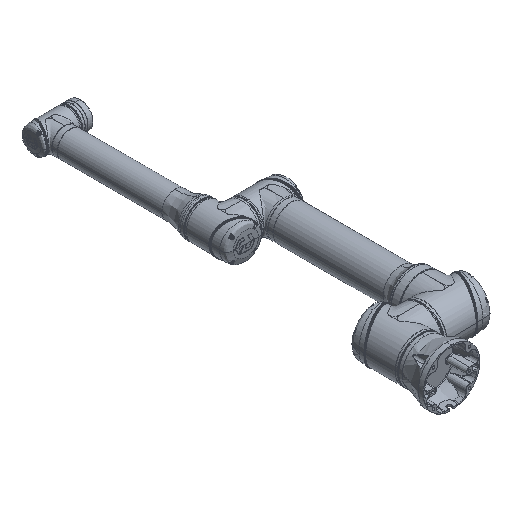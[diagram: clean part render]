
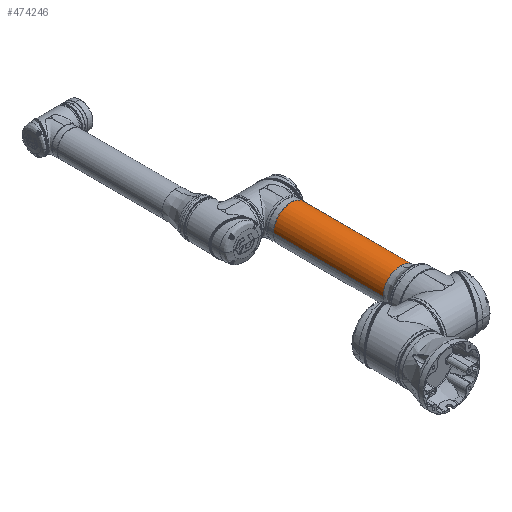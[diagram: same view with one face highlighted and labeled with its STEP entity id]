
A CAD part, isometric view. The second image highlights one B-rep face of the part: STEP entity #474246.
In plain terms, the highlighted cylindrical face has radius 59 mm (diameter 118 mm), a partial arc.
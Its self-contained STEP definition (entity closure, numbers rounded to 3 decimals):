
#23764 = DIRECTION ( 'NONE',  ( 1., 0., 0. ) ) ;
#40263 = ORIENTED_EDGE ( 'NONE', *, *, #458145, .T. ) ;
#65188 = VERTEX_POINT ( 'NONE', #257082 ) ;
#69474 = VERTEX_POINT ( 'NONE', #323499 ) ;
#74749 = CARTESIAN_POINT ( 'NONE',  ( 158.463, 0., 59. ) ) ;
#75583 = CARTESIAN_POINT ( 'NONE',  ( 158.463, 0., 0. ) ) ;
#80024 = CIRCLE ( 'NONE', #309183, 59. ) ;
#88572 = DIRECTION ( 'NONE',  ( 1., 0., 0. ) ) ;
#99130 = DIRECTION ( 'NONE',  ( 0., 0., -1. ) ) ;
#99656 = CARTESIAN_POINT ( 'NONE',  ( 562.7, 0., 0. ) ) ;
#104517 = DIRECTION ( 'NONE',  ( 0., 0., -1. ) ) ;
#116570 = ORIENTED_EDGE ( 'NONE', *, *, #485534, .T. ) ;
#121836 = CIRCLE ( 'NONE', #151931, 59. ) ;
#122213 = EDGE_LOOP ( 'NONE', ( #416484, #40263, #323147, #116570, #219150 ) ) ;
#127423 = LINE ( 'NONE', #206457, #286010 ) ;
#128517 = DIRECTION ( 'NONE',  ( 1., 0., 0. ) ) ;
#140276 = AXIS2_PLACEMENT_3D ( 'NONE', #99656, #399809, #104517 ) ;
#145257 = CARTESIAN_POINT ( 'NONE',  ( 526.1, 0., 0. ) ) ;
#146179 = DIRECTION ( 'NONE',  ( 1., 0., 0. ) ) ;
#151030 = DIRECTION ( 'NONE',  ( 0., 0., -1. ) ) ;
#151931 = AXIS2_PLACEMENT_3D ( 'NONE', #145257, #407669, #366747 ) ;
#153774 = VERTEX_POINT ( 'NONE', #239422 ) ;
#158043 = LINE ( 'NONE', #353232, #193305 ) ;
#162157 = EDGE_CURVE ( 'NONE', #210008, #481707, #127423, .T. ) ;
#163313 = CIRCLE ( 'NONE', #206514, 59. ) ;
#193305 = VECTOR ( 'NONE', #128517, 1000. ) ;
#202258 = EDGE_CURVE ( 'NONE', #65188, #153774, #80024, .T. ) ;
#206457 = CARTESIAN_POINT ( 'NONE',  ( 562.7, 0., 59. ) ) ;
#206514 = AXIS2_PLACEMENT_3D ( 'NONE', #75583, #146179, #151030 ) ;
#210008 = VERTEX_POINT ( 'NONE', #74749 ) ;
#219150 = ORIENTED_EDGE ( 'NONE', *, *, #389227, .T. ) ;
#239422 = CARTESIAN_POINT ( 'NONE',  ( 158.463, 0., -59. ) ) ;
#248040 = FACE_OUTER_BOUND ( 'NONE', #122213, .T. ) ;
#257082 = CARTESIAN_POINT ( 'NONE',  ( 158.463, -59., 0. ) ) ;
#259850 = CYLINDRICAL_SURFACE ( 'NONE', #140276, 59. ) ;
#261524 = CARTESIAN_POINT ( 'NONE',  ( 526.1, 0., 59. ) ) ;
#286010 = VECTOR ( 'NONE', #88572, 1000. ) ;
#309183 = AXIS2_PLACEMENT_3D ( 'NONE', #474878, #23764, #99130 ) ;
#323147 = ORIENTED_EDGE ( 'NONE', *, *, #202258, .T. ) ;
#323499 = CARTESIAN_POINT ( 'NONE',  ( 526.1, 0., -59. ) ) ;
#353232 = CARTESIAN_POINT ( 'NONE',  ( 562.7, 0., -59. ) ) ;
#366747 = DIRECTION ( 'NONE',  ( 0., 0., -1. ) ) ;
#389227 = EDGE_CURVE ( 'NONE', #69474, #481707, #121836, .T. ) ;
#399809 = DIRECTION ( 'NONE',  ( 1., 0., 0. ) ) ;
#407669 = DIRECTION ( 'NONE',  ( -1., 0., 0. ) ) ;
#416484 = ORIENTED_EDGE ( 'NONE', *, *, #162157, .F. ) ;
#458145 = EDGE_CURVE ( 'NONE', #210008, #65188, #163313, .T. ) ;
#474246 = ADVANCED_FACE ( 'NONE', ( #248040 ), #259850, .T. ) ;
#474878 = CARTESIAN_POINT ( 'NONE',  ( 158.463, 0., 0. ) ) ;
#481707 = VERTEX_POINT ( 'NONE', #261524 ) ;
#485534 = EDGE_CURVE ( 'NONE', #153774, #69474, #158043, .T. ) ;
